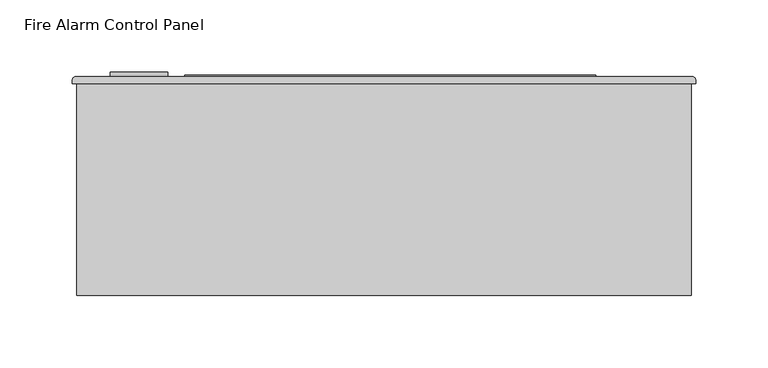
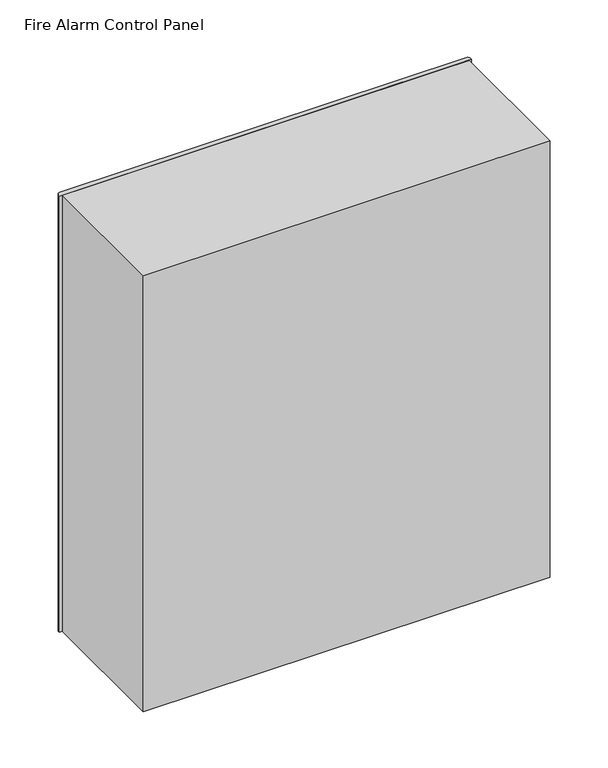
"""IFC4 building model written with IfcOpenShell, lengths in millimetres: proxy geometry, Fire_Alarm_Control_Panel_Wallmount_BIM_Model : Fire Alarm Control Panel."""

from ifc_helpers import new_model, si_unit, point, frame, frame_2d, origin, place, context, project, spatial, polyline, circle_curve, trimmed, segment, composite_curve, outline, extrude, source, transform, mapped, element, save


def fire_alarm_control_panel_b452572c(model_context):
    return source(origin(), model_context, "Body", "SweptSolid", [
        extrude(outline(polyline([(271.8339485, 303.0), (-13.1660515, 303.0), (-13.1660515, 304.0), (271.8339485, 304.0), (271.8339485, 303.0)])), frame((0.0, 0.0, 667.186947), z_axis=(0.0, 0.0, 1.0), x_axis=(1.0, 0.0, 0.0)), (0.0, 0.0, 1.0), 157.2148213),
        extrude(outline(composite_curve([segment(trimmed(circle_curve(frame_2d((706.0, -44.7274277)), 20.0), [point((706.0, -64.7274277))], [point((706.0, -24.7274277))], False, "CARTESIAN"), True, "CONTINUOUS"), segment(trimmed(circle_curve(frame_2d((706.0, -44.7274277)), 20.0), [point((706.0, -24.7274277))], [point((706.0, -64.7274277))], False, "CARTESIAN"), True, "CONTINUOUS")], self_intersect=False), holes=[polyline([(713.2746144, -46.5031745), (713.2746144, -41.5031745), (698.2746144, -41.5031745), (698.2746144, -46.5031745), (713.2746144, -46.5031745)])]), frame((0.0, 303.0, 0.0), z_axis=(0.0, 1.0, 0.0), x_axis=(0.0, 0.0, 1.0)), (0.0, 0.0, 1.0), 3.0),
        extrude(outline(composite_curve([segment(trimmed(circle_curve(frame_2d((338.0, 300.0)), 3.0), [point((338.0, 303.0))], [point((341.0, 300.0))], False, "CARTESIAN"), True, "CONTINUOUS"), segment(polyline([(341.0, 300.0), (341.0, 298.1182851), (-91.0, 298.1182851), (-91.0, 300.0)]), True, "CONTINUOUS"), segment(trimmed(circle_curve(frame_2d((-88.0, 300.0)), 3.0), [point((-91.0, 300.0))], [point((-88.0, 303.0))], False, "CARTESIAN"), True, "CONTINUOUS"), segment(polyline([(-88.0, 303.0), (338.0, 303.0)]), True, "CONTINUOUS")], self_intersect=False)), frame((0.0, 0.0, 460.0), z_axis=(0.0, 0.0, 1.0), x_axis=(1.0, 0.0, 0.0)), (0.0, 0.0, 1.0), 483.0),
        extrude(outline(polyline([(338.0, 298.1182851), (338.0, 151.0), (-88.0, 151.0), (-88.0, 298.1182851), (338.0, 298.1182851)])), frame((0.0, 0.0, 460.0), z_axis=(0.0, 0.0, 1.0), x_axis=(1.0, 0.0, 0.0)), (0.0, 0.0, 1.0), 483.0),
    ])


if __name__ == "__main__":
    model = new_model("IFC4")
    model_context = context("Model", 3, world=origin())
    ifc_project = project(units=[si_unit("LENGTHUNIT", "METRE", prefix="MILLI")], contexts=[model_context])
    site = spatial("IfcSite", under=ifc_project)
    building = spatial("IfcBuilding", under=site)
    placement = place(None, origin())
    fire_alarm_control_panel_shape = fire_alarm_control_panel_b452572c(model_context)
    element("IfcBuildingElementProxy", 1, Name="Fire_Alarm_Control_Panel_Wallmount_BIM_Model : Fire Alarm Control Panel", ObjectType="Fire_Alarm_Control_Panel_Wallmount_BIM_Model : Fire Alarm Control Panel", at=placement, inside=building, context=model_context, shape_type="MappedRepresentation", body=[
        mapped(fire_alarm_control_panel_shape, transform((0.0, 0.0, 0.0), x_axis=(1.0, 0.0, 0.0), y_axis=(0.0, 1.0, 0.0), z_axis=(0.0, 0.0, 1.0))),
    ])
    save(model, "model.ifc")
